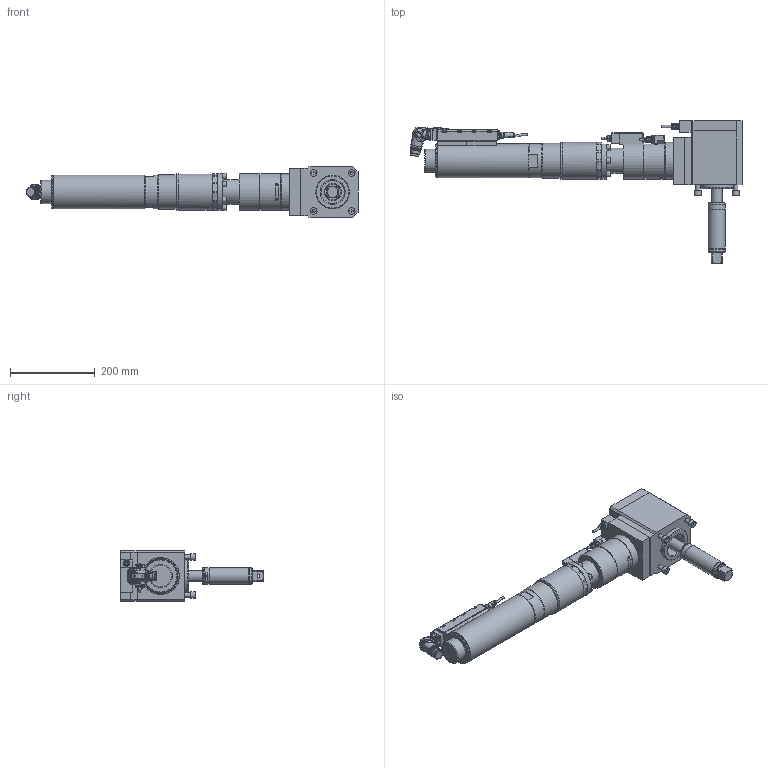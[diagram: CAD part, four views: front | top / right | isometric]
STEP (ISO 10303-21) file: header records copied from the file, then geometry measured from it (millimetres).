
FILE_DESCRIPTION (( 'STEP AP214' ), '1' );
FILE_NAME ('70082548_ESX480DRX800WX4AWDX460-800.STEP', '2016-11-15T13:38:26', ( 'admin' ), ( '' ), 'SwSTEP 2.0', 'SolidWorks 2014', '' );
FILE_SCHEMA (( 'AUTOMOTIVE_DESIGN' ));
Length unit declared in the file: millimetre
Products named in the file (12): 70082293_2; 70057493_Standard_winkel; 70057493_4; 70057493_3; 70057493_2; 70082312; 70082548_ESX480DRX800WX4AWDX460-800; 7006176_3; 70082406; 70082363; 70082326; 70082312_ESX480_Standard_Winkel_2
Assembly tree (12 placements, depth 4):
  70082548_ESX480DRX800WX4AWDX460-800
    70082312_ESX480_Standard_Winkel_2
      70082312
      70057493_Standard_winkel
        70057493_2
        70057493_3
        70057493_4
      70082293_2  x2
    70082326
    70082363
    70082406
    7006176_3
Bounding box: 785.76 x 338 x 120 mm (x, y, z)
Volume: 6199179.7 mm3; surface area: 491751 mm2
Topology: 14 solids, 14 shells, 3204 faces, 8295 edges, 5363 vertices
Faces by surface type: plane 1554, cylinder 871, cone 422, bspline 271, torus 80, sphere 6
Full cylindrical faces by diameter (mm): 0.5 x14, 0.57 x14, 2 x3, 3 x4, 4.2 x1, 4.9 x7, 5 x9, 5.5 x12, 6 x3, 6.8 x12, 8 x44, 8.459 x2, 9 x7, 9.1 x1, 10 x4, 11.08 x3, 12 x1, 12.3 x3, 13 x12, 14 x6, 14.5 x2, 16 x4, 17.4 x1, 20 x1, 21.15 x1, 21.5 x1, 21.7 x1, 22.3 x1, 24.3 x1, 24.75 x2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
Entity records: 106635 total; most frequent: CARTESIAN_POINT 34529, ORIENTED_EDGE 14876, DIRECTION 13094, EDGE_CURVE 7438, VERTEX_POINT 5025, AXIS2_PLACEMENT_3D 4900, EDGE_LOOP 3739, FACE_OUTER_BOUND 3341
